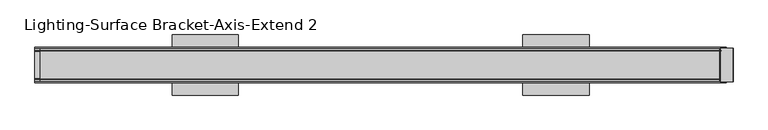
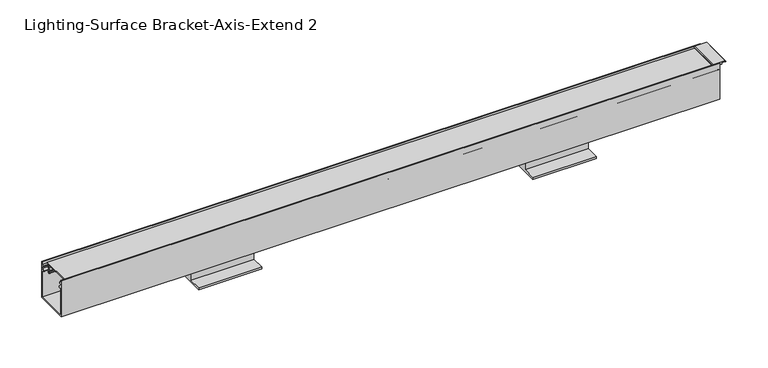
"""IFC4 building model written with IfcOpenShell, lengths in millimetres: light fixture geometry, Lighting-Surface Bracket-Axis-Extend 2 : EX2S-900-80-35-SO-4."""

import ifcopenshell
import ifcopenshell.guid

model = None  # the IFC model being written
_history = None  # IfcOwnerHistory: only IFC2X3 demands one
_inside = {}  # id of a spatial element -> (the spatial element, [elements in it])
_under = {}  # id of a project, library or spatial element -> (it, [spatial elements below it])
_declared = {}  # id of a project -> (the project, [libraries it declares])
_typed = {}  # id of a type object -> (the type object, [elements of that type])
_made_of = {}  # id of a material, layer set ... -> (it, [elements and type objects made of it])


def new_model(schema):
    """Start an empty IFC model of exactly this schema.

    Asked for "IFC4X3", IfcOpenShell would pick the latest addendum, in which some entities
    have other attributes; the version numbers below select the first issue.
    IFC2X3 requires an IfcOwnerHistory on every rooted entity: one is made here for all.
    """
    global model, _history
    if schema == "IFC4X3":
        model = ifcopenshell.file(schema_version=(4, 3, 0, 0))
    else:
        model = ifcopenshell.file(schema=schema)
    _inside.clear()
    _under.clear()
    _declared.clear()
    _typed.clear()
    _made_of.clear()
    _history = None
    if model.schema == "IFC2X3":
        org = make("IfcOrganization", Name="unknown")
        user = make(
            "IfcPersonAndOrganization",
            ThePerson=make("IfcPerson", FamilyName="unknown"),
            TheOrganization=org,
        )
        app = make(
            "IfcApplication",
            ApplicationDeveloper=org,
            Version="unknown",
            ApplicationFullName="unknown",
            ApplicationIdentifier="unknown",
        )
        _history = make(
            "IfcOwnerHistory",
            OwningUser=user,
            OwningApplication=app,
            ChangeAction="ADDED",
            CreationDate=0,
        )
    return model


def make(cls, **values):
    """One entity of the class cls with the attributes given. An attribute that is None is left unset."""
    return model.create_entity(
        cls, **{name: value for name, value in values.items() if value is not None}
    )


def rooted(cls, **values):
    """An entity with a GlobalId (a new one), such as an element, a storey or a relation."""
    return make(cls, GlobalId=ifcopenshell.guid.new(), OwnerHistory=_history, **values)


def si_unit(unit_type, name, prefix=None):
    """IfcSIUnit, for example si_unit("LENGTHUNIT", "METRE", prefix="MILLI")."""
    return make("IfcSIUnit", UnitType=unit_type, Prefix=prefix, Name=name)


def assignment(units):
    """IfcUnitAssignment: the units of a project."""
    return None if units is None else make("IfcUnitAssignment", Units=units)


def point(xyz):
    """IfcCartesianPoint."""
    return None if xyz is None else make("IfcCartesianPoint", Coordinates=xyz)


def direction(xyz):
    """IfcDirection."""
    return None if xyz is None else make("IfcDirection", DirectionRatios=xyz)


def frame(location, z_axis=None, x_axis=None):
    """IfcAxis2Placement3D, a coordinate frame: its origin and axes. An axis left out is left unset."""
    return make(
        "IfcAxis2Placement3D",
        Location=point(location),
        Axis=direction(z_axis),
        RefDirection=direction(x_axis),
    )


def frame_2d(location, x_axis=None):
    """IfcAxis2Placement2D, a coordinate frame in the plane: its origin and x axis."""
    return make(
        "IfcAxis2Placement2D", Location=point(location), RefDirection=direction(x_axis)
    )


def origin():
    """The frame at (0, 0, 0) with its axes left unset."""
    return frame((0.0, 0.0, 0.0))


def place(relative_to, where):
    """IfcLocalPlacement: puts the frame where relative to a parent placement (None: the world)."""
    return make(
        "IfcLocalPlacement", PlacementRelTo=relative_to, RelativePlacement=where
    )


def context(
    kind, dimensions, precision=None, world=None, true_north=None, identifier=None
):
    """IfcGeometricRepresentationContext, for example the 3D "Model" context."""
    return make(
        "IfcGeometricRepresentationContext",
        ContextIdentifier=identifier,
        ContextType=kind,
        CoordinateSpaceDimension=dimensions,
        Precision=precision,
        WorldCoordinateSystem=world,
        TrueNorth=true_north,
    )


def project(units=None, contexts=None):
    """IfcProject with its units and contexts."""
    return rooted(
        "IfcProject",
        Name="project",
        RepresentationContexts=contexts,
        UnitsInContext=assignment(units),
    )


def spatial(cls, under=None, at=None, **own):
    """A site, building, storey or space (cls), placed at a placement, below another one or the project."""
    s = rooted(cls, ObjectPlacement=at, **own)
    if under is not None:
        _under.setdefault(under.id(), (under, []))[1].append(s)
    return s


def polyline(points):
    """IfcPolyline through the points."""
    return make("IfcPolyline", Points=[point(p) for p in points])


def circle_curve(where, radius):
    """IfcCircle in the frame where."""
    return make("IfcCircle", Position=where, Radius=radius)


def trimmed(basis, trim1, trim2, sense, master):
    """IfcTrimmedCurve: the piece of a basis curve between two trims."""
    return make(
        "IfcTrimmedCurve",
        BasisCurve=basis,
        Trim1=trim1,
        Trim2=trim2,
        SenseAgreement=sense,
        MasterRepresentation=master,
    )


def segment(curve, same_sense, transition):
    """IfcCompositeCurveSegment."""
    return make(
        "IfcCompositeCurveSegment",
        Transition=transition,
        SameSense=same_sense,
        ParentCurve=curve,
    )


def composite_curve(segments, self_intersect=None):
    """IfcCompositeCurve: segments joined end to end."""
    return make("IfcCompositeCurve", Segments=segments, SelfIntersect=self_intersect)


def outline(outer, holes=None, kind="AREA"):
    """IfcArbitraryClosedProfileDef: a profile drawn as a closed curve; with holes, ...WithVoids."""
    if holes is None:
        return make("IfcArbitraryClosedProfileDef", ProfileType=kind, OuterCurve=outer)
    return make(
        "IfcArbitraryProfileDefWithVoids",
        ProfileType=kind,
        OuterCurve=outer,
        InnerCurves=holes,
    )


def extrude(swept, where, along, depth):
    """IfcExtrudedAreaSolid: the profile swept, set in the frame where, extruded along a direction by depth."""
    return make(
        "IfcExtrudedAreaSolid",
        SweptArea=swept,
        Position=where,
        ExtrudedDirection=direction(along),
        Depth=depth,
    )


def shape(context_of_items, identifier, shape_type, items):
    """IfcShapeRepresentation: the items that make up one representation, for example the "Body"."""
    return make(
        "IfcShapeRepresentation",
        ContextOfItems=context_of_items,
        RepresentationIdentifier=identifier,
        RepresentationType=shape_type,
        Items=items,
    )


def source(mapping_origin, context_of_items, identifier, shape_type, items):
    """IfcRepresentationMap: a shape defined once, which mapped items show again and again."""
    return make(
        "IfcRepresentationMap",
        MappingOrigin=mapping_origin,
        MappedRepresentation=shape(context_of_items, identifier, shape_type, items),
    )


def transform(
    local_origin,
    x_axis=None,
    y_axis=None,
    z_axis=None,
    scale=None,
    scale2=None,
    scale3=None,
    uniform=True,
):
    """IfcCartesianTransformationOperator3D, or its non-uniform kind. x_axis, y_axis, z_axis: its Axis1, 2, 3."""
    if uniform:
        return make(
            "IfcCartesianTransformationOperator3D",
            Axis1=direction(x_axis),
            Axis2=direction(y_axis),
            LocalOrigin=point(local_origin),
            Scale=scale,
            Axis3=direction(z_axis),
        )
    return make(
        "IfcCartesianTransformationOperator3DnonUniform",
        Axis1=direction(x_axis),
        Axis2=direction(y_axis),
        LocalOrigin=point(local_origin),
        Scale=scale,
        Axis3=direction(z_axis),
        Scale2=scale2,
        Scale3=scale3,
    )


def mapped(mapping_source, mapping_target):
    """IfcMappedItem: shows the shape of a source again, moved by a transform."""
    return make(
        "IfcMappedItem", MappingSource=mapping_source, MappingTarget=mapping_target
    )


def made_of(thing, what):
    """Note that an element or type object is made of a material, layer set ...; save() writes the relation."""
    if what is not None:
        _made_of.setdefault(what.id(), (what, []))[1].append(thing)
    return thing


def element(
    cls,
    number,
    at=None,
    inside=None,
    cuts=None,
    type_object=None,
    material=None,
    context=None,
    identifier="Body",
    shape_type=None,
    held_by="IfcProductDefinitionShape",
    body=None,
    shapes=None,
    **own,
):
    """One element of the class cls, such as IfcWall. Its Tag is "e" and its number.

    at: its placement. inside: the storey or other place that contains it. cuts: it is an
    opening in that element (IfcRelVoidsElement). A single representation is given by context,
    identifier, shape_type and body (its items); several are given by shapes. held_by: the class
    of the entity that holds the representations. save() writes the other relations.
    """
    e = rooted(cls, Tag="e%d" % number, ObjectPlacement=at, **own)
    if body is not None:
        shapes = [shape(context, identifier, shape_type, body)]
    if shapes is not None:
        e.Representation = make(held_by, Representations=shapes)
    if inside is not None:
        _inside.setdefault(inside.id(), (inside, []))[1].append(e)
    if cuts is not None:
        rooted(
            "IfcRelVoidsElement", RelatingBuildingElement=cuts, RelatedOpeningElement=e
        )
    if type_object is not None:
        _typed.setdefault(type_object.id(), (type_object, []))[1].append(e)
    return made_of(e, material)


def aggregate(whole, parts):
    """IfcRelAggregates: a whole, such as a stair, and the parts it consists of."""
    return rooted("IfcRelAggregates", RelatingObject=whole, RelatedObjects=parts)


def save(model, path):
    """Write the relations noted so far, then the file.

    IfcRelAggregates (storeys below a building ...), IfcRelContainedInSpatialStructure (elements
    in a storey), IfcRelDefinesByType, IfcRelAssociatesMaterial and IfcRelDeclares: one each for
    every whole, place, type object, material and project.
    """
    for whole, parts in _under.values():
        aggregate(whole, parts)
    for where, things in _inside.values():
        rooted(
            "IfcRelContainedInSpatialStructure",
            RelatedElements=things,
            RelatingStructure=where,
        )
    for kind, things in _typed.values():
        rooted("IfcRelDefinesByType", RelatedObjects=things, RelatingType=kind)
    for what, things in _made_of.values():
        rooted("IfcRelAssociatesMaterial", RelatedObjects=things, RelatingMaterial=what)
    for by, libraries in _declared.values():
        rooted("IfcRelDeclares", RelatingContext=by, RelatedDefinitions=libraries)
    model.write(path)


def lighting_surface_bracket_axis_extend_2_b65ae41a(model_context):
    return source(origin(), model_context, "Body", "SweptSolid", [
        extrude(outline(polyline([(3.5941, 19.05), (60.4139, 19.05), (60.4139, 3.9878), (85.8139335, 3.9878), (85.8139335, 0.0), (-21.8059335, 0.0), (-21.8059335, 3.9878), (3.5941, 3.9878), (3.5941, 19.05)])), frame((-373.30634, 0.0, 0.0), z_axis=(1.0, 0.0, 0.0), x_axis=(0.0, 1.0, 0.0)), (0.0, 0.0, 1.0), 118.69928),
        extrude(outline(polyline([(3.5941, 19.05), (60.4139, 19.05), (60.4139, 3.9878), (85.8139335, 3.9878), (85.8139335, 0.0), (-21.8059335, 0.0), (-21.8059335, 3.9878), (3.5941, 3.9878), (3.5941, 19.05)])), frame((254.60706, 0.0, 0.0), z_axis=(1.0, 0.0, 0.0), x_axis=(0.0, 1.0, 0.0)), (0.0, 0.0, 1.0), 118.69928),
        extrude(outline(polyline([(89.3857861, 606.6536), (87.91575, 606.6536), (87.91575, 607.44735), (88.7095, 607.44735), (88.7095, 613.918), (85.9032981, 613.918), (85.9032981, 623.5954), (88.7095, 623.5954), (88.7095, 630.06605), (87.91575, 630.06605), (87.91575, 630.8598), (89.3857861, 630.8598), (90.4875, 629.9352563), (90.4875, 607.5781437), (89.3857861, 606.6536)])), frame((0.0, 2.032, 0.0), z_axis=(0.0, 1.0, 0.0), x_axis=(0.0, 0.0, 1.0)), (0.0, 0.0, 1.0), 59.944),
        extrude(outline(composite_curve([segment(polyline([(56.1767262, 85.5979991), (7.8312738, 85.5979991), (7.4925819, 79.1353737)]), True, "CONTINUOUS"), segment(trimmed(circle_curve(frame_2d((4.7498, 76.1365)), 4.064), [point((7.4925819, 79.1353737))], [point((6.6221186, 72.5294903))], False, "CARTESIAN"), True, "CONTINUOUS"), segment(trimmed(circle_curve(frame_2d((9.854656, 73.3183457)), 3.3274001), [point((6.6221186, 72.5294903))], [point((7.4374044, 71.0317575))], True, "CARTESIAN"), True, "CONTINUOUS"), segment(trimmed(circle_curve(frame_2d((14.8736823, 78.0660708)), 10.2362001), [point((7.4374044, 71.0317575))], [point((8.7920934, 69.8323555))], True, "CARTESIAN"), True, "CONTINUOUS"), segment(trimmed(circle_curve(frame_2d((8.3016427, 69.1683462)), 0.8255), [point((8.7920934, 69.8323555))], [point((7.811192, 68.5043369))], False, "CARTESIAN"), True, "CONTINUOUS"), segment(trimmed(circle_curve(frame_2d((14.8736831, 78.0660717)), 11.8872013), [point((7.811192, 68.5043369))], [point((6.2380048, 69.8971908))], False, "CARTESIAN"), True, "CONTINUOUS"), segment(trimmed(circle_curve(frame_2d((9.854656, 73.3183457)), 4.9784001), [point((6.2380048, 69.8971908))], [point((4.8931193, 73.72776))], False, "CARTESIAN"), True, "CONTINUOUS"), segment(trimmed(circle_curve(frame_2d((4.7498, 76.1365)), 2.413), [point((4.8931193, 73.72776))], [point((6.5286059, 77.7669658))], True, "CARTESIAN"), True, "CONTINUOUS"), segment(trimmed(circle_curve(frame_2d((8.4010331, 79.4832456)), 2.54), [point((6.5286059, 77.7669658))], [point((5.8645141, 79.6161789))], False, "CARTESIAN"), True, "CONTINUOUS"), segment(polyline([(5.8645141, 79.6161789), (6.178008, 85.5979991), (3.175, 85.5979991), (3.175, 87.503), (60.833, 87.503), (60.833, 85.5979991), (57.829992, 85.5979991), (58.1434859, 79.6161789)]), True, "CONTINUOUS"), segment(trimmed(circle_curve(frame_2d((55.6069669, 79.4832456)), 2.54), [point((58.1434859, 79.6161789))], [point((57.4793941, 77.7669658))], False, "CARTESIAN"), True, "CONTINUOUS"), segment(trimmed(circle_curve(frame_2d((59.2582, 76.1365)), 2.413), [point((57.4793941, 77.7669658))], [point((59.1148807, 73.72776))], True, "CARTESIAN"), True, "CONTINUOUS"), segment(trimmed(circle_curve(frame_2d((54.153344, 73.3183457)), 4.9784001), [point((59.1148807, 73.72776))], [point((57.7699952, 69.8971908))], False, "CARTESIAN"), True, "CONTINUOUS"), segment(trimmed(circle_curve(frame_2d((49.1343169, 78.0660717)), 11.8872013), [point((57.7699952, 69.8971908))], [point((56.196808, 68.5043369))], False, "CARTESIAN"), True, "CONTINUOUS"), segment(trimmed(circle_curve(frame_2d((55.7063573, 69.1683462)), 0.8255), [point((56.196808, 68.5043369))], [point((55.2159066, 69.8323555))], False, "CARTESIAN"), True, "CONTINUOUS"), segment(trimmed(circle_curve(frame_2d((49.1343177, 78.0660708)), 10.2362001), [point((55.2159066, 69.8323555))], [point((56.5705956, 71.0317575))], True, "CARTESIAN"), True, "CONTINUOUS"), segment(trimmed(circle_curve(frame_2d((54.153344, 73.3183457)), 3.3274001), [point((56.5705956, 71.0317575))], [point((57.3858814, 72.5294903))], True, "CARTESIAN"), True, "CONTINUOUS"), segment(trimmed(circle_curve(frame_2d((59.2582, 76.1365)), 4.064), [point((57.3858814, 72.5294903))], [point((56.5154181, 79.1353737))], False, "CARTESIAN"), True, "CONTINUOUS"), segment(polyline([(56.5154181, 79.1353737), (56.1767262, 85.5979991)]), True, "CONTINUOUS")], self_intersect=False)), frame((-609.6, 0.0, 0.0), z_axis=(1.0, 0.0, 0.0), x_axis=(0.0, 1.0, 0.0)), (0.0, 0.0, 1.0), 1219.2),
        extrude(outline(composite_curve([segment(polyline([(61.976, 75.5777), (60.1365797, 75.5777)]), True, "CONTINUOUS"), segment(trimmed(circle_curve(frame_2d((58.6302297, 75.5777)), 1.5063501), [point((60.1365797, 75.5777))], [point((57.8770546, 74.2731626))], False, "CARTESIAN"), True, "CONTINUOUS"), segment(trimmed(circle_curve(frame_2d((59.0682121, 76.3363079)), 2.382315), [point((57.8770546, 74.2731626))], [point((56.6936516, 76.5283682))], False, "CARTESIAN"), True, "CONTINUOUS"), segment(polyline([(56.6936516, 76.5283682), (60.071, 79.3623), (60.071, 77.6097), (61.976, 77.6097), (61.976, 84.1375), (60.071, 84.1375), (60.071, 82.6135), (58.42, 82.7000252), (58.42, 85.4075), (61.976, 85.4075), (61.976, 90.4875), (64.008, 90.4875), (64.008, 19.05), (0.0, 19.05), (0.0, 90.4875), (2.032, 90.4875), (2.032, 85.4075), (5.588, 85.4075), (5.588, 82.7000252), (3.937, 82.6135), (3.937, 84.1375), (2.032, 84.1375), (2.032, 77.6097), (3.937, 77.6097), (3.937, 79.3623), (7.3143484, 76.5283682)]), True, "CONTINUOUS"), segment(trimmed(circle_curve(frame_2d((4.9397879, 76.3363079)), 2.382315), [point((7.3143484, 76.5283682))], [point((6.1309454, 74.2731626))], False, "CARTESIAN"), True, "CONTINUOUS"), segment(trimmed(circle_curve(frame_2d((5.3777703, 75.5777)), 1.5063501), [point((6.1309454, 74.2731626))], [point((3.8714203, 75.5777))], False, "CARTESIAN"), True, "CONTINUOUS"), segment(polyline([(3.8714203, 75.5777), (2.032, 75.5777), (2.032, 21.082), (61.976, 21.082), (61.976, 75.5777)]), True, "CONTINUOUS")], self_intersect=False)), frame((-618.7567, 0.0, 0.0), z_axis=(1.0, 0.0, 0.0), x_axis=(0.0, 1.0, 0.0)), (0.0, 0.0, 1.0), 1237.5134),
    ])


if __name__ == "__main__":
    model = new_model("IFC4")
    model_context = context("Model", 3, world=origin())
    ifc_project = project(units=[si_unit("LENGTHUNIT", "METRE", prefix="MILLI")], contexts=[model_context])
    site = spatial("IfcSite", under=ifc_project)
    building = spatial("IfcBuilding", under=site)
    placement = place(None, origin())
    lighting_surface_bracket_axis_extend_2_shape = lighting_surface_bracket_axis_extend_2_b65ae41a(model_context)
    element("IfcLightFixture", 1, ObjectType="Lighting-Surface Bracket-Axis-Extend 2 : EX2S-900-80-35-SO-4", at=placement, inside=building, context=model_context, shape_type="MappedRepresentation", body=[
        mapped(lighting_surface_bracket_axis_extend_2_shape, transform((0.0, 0.0, 0.0), x_axis=(1.0, 0.0, 0.0), y_axis=(0.0, 1.0, 0.0), z_axis=(0.0, 0.0, 1.0))),
    ])
    save(model, "model.ifc")
